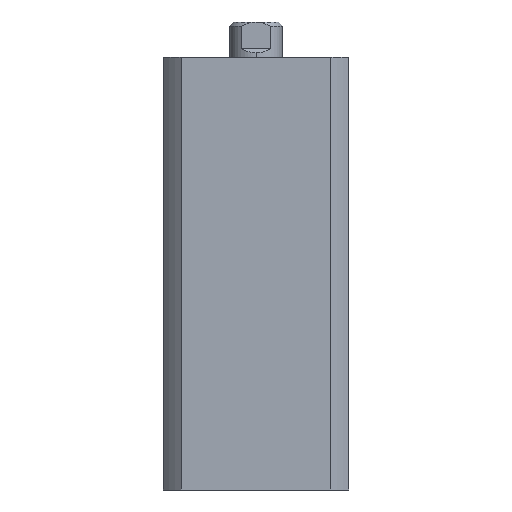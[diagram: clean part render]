
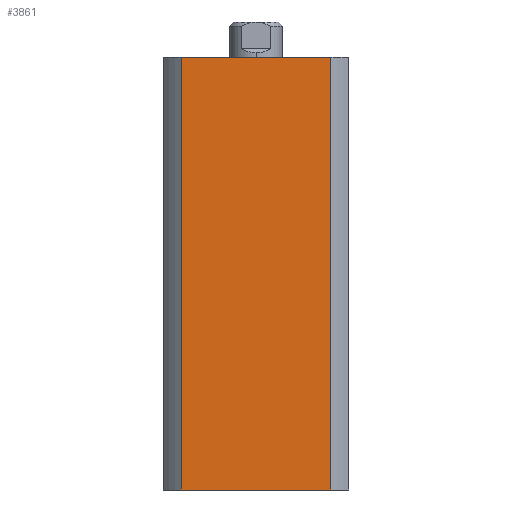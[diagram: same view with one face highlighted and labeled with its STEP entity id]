
A CAD part, left-side view. The second image highlights one B-rep face of the part: STEP entity #3861.
In plain terms, the highlighted planar face has unit normal (-1, 0, 0).
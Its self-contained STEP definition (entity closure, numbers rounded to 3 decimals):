
#201 = AXIS2_PLACEMENT_3D ( 'NONE', #2565, #2562, #2561 ) ;
#460 = CARTESIAN_POINT ( 'NONE',  ( -21., -16.971, 98. ) ) ;
#530 = CARTESIAN_POINT ( 'NONE',  ( -21., -16.971, 0. ) ) ;
#539 = CARTESIAN_POINT ( 'NONE',  ( -21., 16.971, 0. ) ) ;
#545 = CARTESIAN_POINT ( 'NONE',  ( -21., 16.971, 98. ) ) ;
#608 = DIRECTION ( 'NONE',  ( 0., 0., 1. ) ) ;
#609 = CARTESIAN_POINT ( 'NONE',  ( -21., 16.971, 98. ) ) ;
#617 = CARTESIAN_POINT ( 'NONE',  ( -21., -16.971, 98. ) ) ;
#631 = DIRECTION ( 'NONE',  ( 0., 0., -1. ) ) ;
#734 = CARTESIAN_POINT ( 'NONE',  ( -21., 21., 98. ) ) ;
#744 = DIRECTION ( 'NONE',  ( 0., -1., 0. ) ) ;
#909 = EDGE_CURVE ( 'NONE', #2107, #2180, #1363, .T. ) ;
#942 = EDGE_CURVE ( 'NONE', #2180, #2118, #1312, .T. ) ;
#943 = EDGE_CURVE ( 'NONE', #2111, #2107, #1311, .T. ) ;
#949 = DIRECTION ( 'NONE',  ( 0., -1., 0. ) ) ;
#1105 = CARTESIAN_POINT ( 'NONE',  ( -21., 21., 0. ) ) ;
#1308 = VECTOR ( 'NONE', #608, 1000. ) ;
#1310 = VECTOR ( 'NONE', #631, 1000. ) ;
#1311 = LINE ( 'NONE', #609, #1308 ) ;
#1312 = LINE ( 'NONE', #617, #1310 ) ;
#1358 = VECTOR ( 'NONE', #744, 1000. ) ;
#1363 = LINE ( 'NONE', #734, #1358 ) ;
#1641 = ORIENTED_EDGE ( 'NONE', *, *, #942, .F. ) ;
#1642 = ORIENTED_EDGE ( 'NONE', *, *, #909, .F. ) ;
#1643 = ORIENTED_EDGE ( 'NONE', *, *, #943, .F. ) ;
#1644 = ORIENTED_EDGE ( 'NONE', *, *, #3988, .T. ) ;
#2107 = VERTEX_POINT ( 'NONE', #545 ) ;
#2111 = VERTEX_POINT ( 'NONE', #539 ) ;
#2118 = VERTEX_POINT ( 'NONE', #530 ) ;
#2180 = VERTEX_POINT ( 'NONE', #460 ) ;
#2561 = DIRECTION ( 'NONE',  ( 0., 1., 0. ) ) ;
#2562 = DIRECTION ( 'NONE',  ( 1., 0., 0. ) ) ;
#2563 = PLANE ( 'NONE',  #201 ) ;
#2565 = CARTESIAN_POINT ( 'NONE',  ( -21., 21., 98. ) ) ;
#3008 = VECTOR ( 'NONE', #949, 1000. ) ;
#3010 = LINE ( 'NONE', #1105, #3008 ) ;
#3861 = ADVANCED_FACE ( 'NONE', ( #4749 ), #2563, .F. ) ;
#3988 = EDGE_CURVE ( 'NONE', #2111, #2118, #3010, .T. ) ;
#4389 = EDGE_LOOP ( 'NONE', ( #1641, #1642, #1643, #1644 ) ) ;
#4749 = FACE_OUTER_BOUND ( 'NONE', #4389, .T. ) ;
